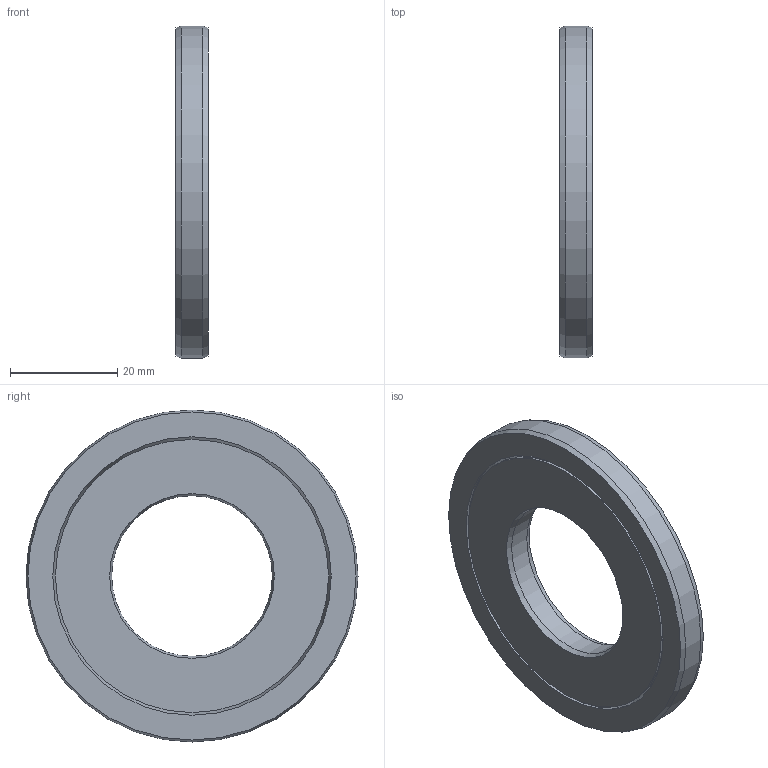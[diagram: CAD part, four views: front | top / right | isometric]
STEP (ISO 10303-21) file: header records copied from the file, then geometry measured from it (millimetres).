
FILE_DESCRIPTION(/* description */ (''),/* implementation_level */ '2;1');
FILE_NAME(/* name */ '306811 CF 6206 A0.stp',/* time_stamp */ '2016-12-16T11:05:54+01:00',/* author */ (''),/* organization */ (''),/* preprocessor_version */ 'ST-DEVELOPER v15',/* originating_system */ 'SIEMENS PLM Software NX 8.5',/* authorisation */ '');
FILE_SCHEMA (('CONFIG_CONTROL_DESIGN'));
Length unit declared in the file: millimetre
Products named in the file (1): ATE0000139_01
Bounding box: 6 x 62 x 62 mm (x, y, z)
Volume: 12708.8 mm3; surface area: 10274.8 mm2
Topology: 2 solids, 2 shells, 26 faces, 46 edges, 28 vertices
Faces by surface type: cone 10, plane 8, cylinder 8
Full cylindrical faces by diameter (mm): 30 x1, 39.5 x1, 40.5 x1, 42 x1, 43 x1, 51 x1, 52 x1, 62 x1
Entity records: 614 total; most frequent: DIRECTION 106, CARTESIAN_POINT 79, AXIS2_PLACEMENT_3D 53, FACE_BOUND 52, EDGE_LOOP 52, ORIENTED_EDGE 52, ADVANCED_FACE 26, VERTEX_POINT 26
